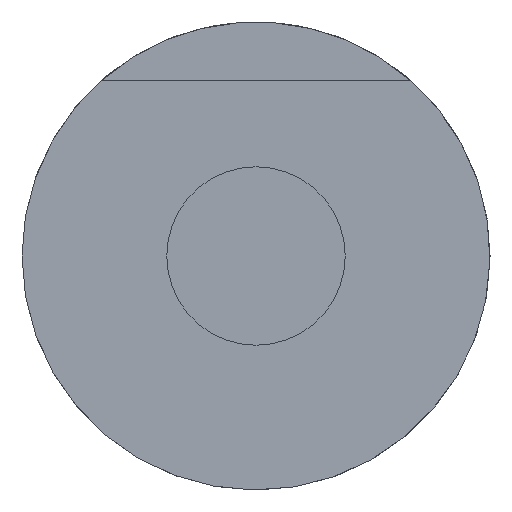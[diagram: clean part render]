
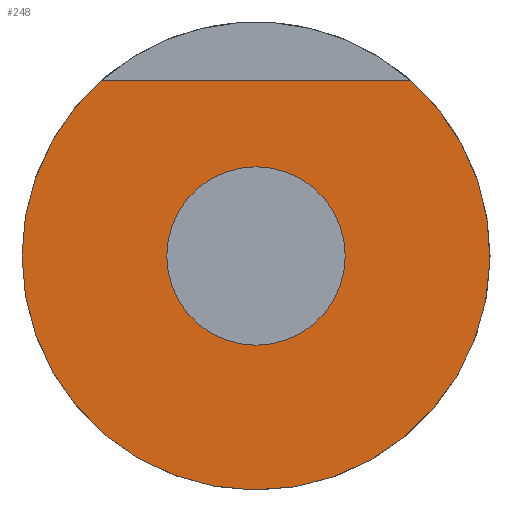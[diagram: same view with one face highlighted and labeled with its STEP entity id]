
A CAD part, left-side view. The second image highlights one B-rep face of the part: STEP entity #248.
In plain terms, the highlighted planar face has unit normal (-1, 0, 0).
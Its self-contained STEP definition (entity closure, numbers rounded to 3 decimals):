
#22 = VERTEX_POINT('',#23);
#23 = CARTESIAN_POINT('',(-13.5,4.,0.));
#32 = CYLINDRICAL_SURFACE('',#33,4.);
#33 = AXIS2_PLACEMENT_3D('',#34,#35,#36);
#34 = CARTESIAN_POINT('',(-13.5,0.,0.));
#35 = DIRECTION('',(-1.,-0.,-0.));
#36 = DIRECTION('',(0.,1.,0.));
#51 = EDGE_CURVE('',#52,#22,#54,.T.);
#52 = VERTEX_POINT('',#53);
#53 = CARTESIAN_POINT('',(-13.5,-2.646,3.));
#54 = SURFACE_CURVE('',#55,(#60,#67),.PCURVE_S1.);
#55 = CIRCLE('',#56,4.);
#56 = AXIS2_PLACEMENT_3D('',#57,#58,#59);
#57 = CARTESIAN_POINT('',(-13.5,0.,0.));
#58 = DIRECTION('',(1.,0.,0.));
#59 = DIRECTION('',(0.,1.,0.));
#60 = PCURVE('',#32,#61);
#61 = DEFINITIONAL_REPRESENTATION('',(#62),#66);
#62 = LINE('',#63,#64);
#63 = CARTESIAN_POINT('',(-0.,0.));
#64 = VECTOR('',#65,1.);
#65 = DIRECTION('',(-1.,0.));
#66 = ( GEOMETRIC_REPRESENTATION_CONTEXT(2) 
PARAMETRIC_REPRESENTATION_CONTEXT() REPRESENTATION_CONTEXT('2D SPACE',''
  ) );
#67 = PCURVE('',#68,#73);
#68 = PLANE('',#69);
#69 = AXIS2_PLACEMENT_3D('',#70,#71,#72);
#70 = CARTESIAN_POINT('',(-13.5,0.,0.));
#71 = DIRECTION('',(1.,0.,0.));
#72 = DIRECTION('',(-0.,0.,1.));
#73 = DEFINITIONAL_REPRESENTATION('',(#74),#78);
#74 = CIRCLE('',#75,4.);
#75 = AXIS2_PLACEMENT_2D('',#76,#77);
#76 = CARTESIAN_POINT('',(0.,0.));
#77 = DIRECTION('',(0.,-1.));
#78 = ( GEOMETRIC_REPRESENTATION_CONTEXT(2) 
PARAMETRIC_REPRESENTATION_CONTEXT() REPRESENTATION_CONTEXT('2D SPACE',''
  ) );
#95 = PLANE('',#96);
#96 = AXIS2_PLACEMENT_3D('',#97,#98,#99);
#97 = CARTESIAN_POINT('',(-14.5,-10.,3.));
#98 = DIRECTION('',(0.,0.,1.));
#99 = DIRECTION('',(1.,0.,0.));
#140 = VERTEX_POINT('',#141);
#141 = CARTESIAN_POINT('',(-13.5,2.646,3.));
#160 = EDGE_CURVE('',#22,#140,#161,.T.);
#161 = SURFACE_CURVE('',#162,(#167,#174),.PCURVE_S1.);
#162 = CIRCLE('',#163,4.);
#163 = AXIS2_PLACEMENT_3D('',#164,#165,#166);
#164 = CARTESIAN_POINT('',(-13.5,0.,0.));
#165 = DIRECTION('',(1.,0.,0.));
#166 = DIRECTION('',(0.,1.,0.));
#167 = PCURVE('',#32,#168);
#168 = DEFINITIONAL_REPRESENTATION('',(#169),#173);
#169 = LINE('',#170,#171);
#170 = CARTESIAN_POINT('',(-0.,0.));
#171 = VECTOR('',#172,1.);
#172 = DIRECTION('',(-1.,0.));
#173 = ( GEOMETRIC_REPRESENTATION_CONTEXT(2) 
PARAMETRIC_REPRESENTATION_CONTEXT() REPRESENTATION_CONTEXT('2D SPACE',''
  ) );
#174 = PCURVE('',#68,#175);
#175 = DEFINITIONAL_REPRESENTATION('',(#176),#180);
#176 = CIRCLE('',#177,4.);
#177 = AXIS2_PLACEMENT_2D('',#178,#179);
#178 = CARTESIAN_POINT('',(0.,0.));
#179 = DIRECTION('',(0.,-1.));
#180 = ( GEOMETRIC_REPRESENTATION_CONTEXT(2) 
PARAMETRIC_REPRESENTATION_CONTEXT() REPRESENTATION_CONTEXT('2D SPACE',''
  ) );
#248 = ADVANCED_FACE('',(#249,#272),#68,.F.);
#249 = FACE_BOUND('',#250,.F.);
#250 = EDGE_LOOP('',(#251,#252,#253));
#251 = ORIENTED_EDGE('',*,*,#51,.T.);
#252 = ORIENTED_EDGE('',*,*,#160,.T.);
#253 = ORIENTED_EDGE('',*,*,#254,.T.);
#254 = EDGE_CURVE('',#140,#52,#255,.T.);
#255 = SURFACE_CURVE('',#256,(#260,#266),.PCURVE_S1.);
#256 = LINE('',#257,#258);
#257 = CARTESIAN_POINT('',(-13.5,-5.,3.));
#258 = VECTOR('',#259,1.);
#259 = DIRECTION('',(0.,-1.,0.));
#260 = PCURVE('',#68,#261);
#261 = DEFINITIONAL_REPRESENTATION('',(#262),#265);
#262 = B_SPLINE_CURVE_WITH_KNOTS('',1,(#263,#264),.UNSPECIFIED.,.F.,.F.,
  (2,2),(-9.,-1.),.PIECEWISE_BEZIER_KNOTS.);
#263 = CARTESIAN_POINT('',(3.,-4.));
#264 = CARTESIAN_POINT('',(3.,4.));
#265 = ( GEOMETRIC_REPRESENTATION_CONTEXT(2) 
PARAMETRIC_REPRESENTATION_CONTEXT() REPRESENTATION_CONTEXT('2D SPACE',''
  ) );
#266 = PCURVE('',#95,#267);
#267 = DEFINITIONAL_REPRESENTATION('',(#268),#271);
#268 = B_SPLINE_CURVE_WITH_KNOTS('',1,(#269,#270),.UNSPECIFIED.,.F.,.F.,
  (2,2),(-9.,-1.),.PIECEWISE_BEZIER_KNOTS.);
#269 = CARTESIAN_POINT('',(1.,14.));
#270 = CARTESIAN_POINT('',(1.,6.));
#271 = ( GEOMETRIC_REPRESENTATION_CONTEXT(2) 
PARAMETRIC_REPRESENTATION_CONTEXT() REPRESENTATION_CONTEXT('2D SPACE',''
  ) );
#272 = FACE_BOUND('',#273,.F.);
#273 = EDGE_LOOP('',(#274));
#274 = ORIENTED_EDGE('',*,*,#275,.T.);
#275 = EDGE_CURVE('',#276,#276,#278,.T.);
#276 = VERTEX_POINT('',#277);
#277 = CARTESIAN_POINT('',(-13.5,1.525,0.));
#278 = SURFACE_CURVE('',#279,(#284,#295),.PCURVE_S1.);
#279 = CIRCLE('',#280,1.525);
#280 = AXIS2_PLACEMENT_3D('',#281,#282,#283);
#281 = CARTESIAN_POINT('',(-13.5,0.,0.));
#282 = DIRECTION('',(-1.,0.,0.));
#283 = DIRECTION('',(0.,1.,0.));
#284 = PCURVE('',#68,#285);
#285 = DEFINITIONAL_REPRESENTATION('',(#286),#294);
#286 = ( BOUNDED_CURVE() B_SPLINE_CURVE(2,(#287,#288,#289,#290,#291,#292
,#293),.UNSPECIFIED.,.T.,.F.) B_SPLINE_CURVE_WITH_KNOTS((1,2,2,2,2,1),(
    -2.094,0.,2.094,4.189,6.283,
8.378),.UNSPECIFIED.) CURVE() GEOMETRIC_REPRESENTATION_ITEM() 
RATIONAL_B_SPLINE_CURVE((1.,0.5,1.,0.5,1.,0.5,1.)) REPRESENTATION_ITEM(
  '') );
#287 = CARTESIAN_POINT('',(0.,-1.525));
#288 = CARTESIAN_POINT('',(-2.641,-1.525));
#289 = CARTESIAN_POINT('',(-1.321,0.763));
#290 = CARTESIAN_POINT('',(0.,3.05));
#291 = CARTESIAN_POINT('',(1.321,0.763));
#292 = CARTESIAN_POINT('',(2.641,-1.525));
#293 = CARTESIAN_POINT('',(0.,-1.525));
#294 = ( GEOMETRIC_REPRESENTATION_CONTEXT(2) 
PARAMETRIC_REPRESENTATION_CONTEXT() REPRESENTATION_CONTEXT('2D SPACE',''
  ) );
#295 = PCURVE('',#296,#301);
#296 = CYLINDRICAL_SURFACE('',#297,1.525);
#297 = AXIS2_PLACEMENT_3D('',#298,#299,#300);
#298 = CARTESIAN_POINT('',(-14.5,0.,0.));
#299 = DIRECTION('',(-1.,-0.,-0.));
#300 = DIRECTION('',(0.,1.,0.));
#301 = DEFINITIONAL_REPRESENTATION('',(#302),#306);
#302 = LINE('',#303,#304);
#303 = CARTESIAN_POINT('',(-6.283,-1.));
#304 = VECTOR('',#305,1.);
#305 = DIRECTION('',(1.,-0.));
#306 = ( GEOMETRIC_REPRESENTATION_CONTEXT(2) 
PARAMETRIC_REPRESENTATION_CONTEXT() REPRESENTATION_CONTEXT('2D SPACE',''
  ) );
